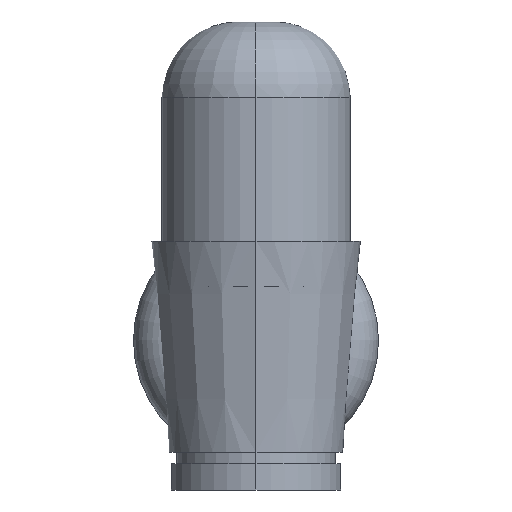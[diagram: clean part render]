
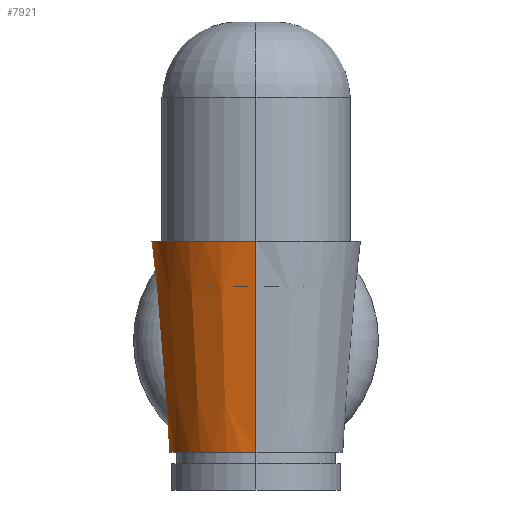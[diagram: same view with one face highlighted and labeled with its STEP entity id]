
A CAD part, left-side view. The second image highlights one B-rep face of the part: STEP entity #7921.
In plain terms, the highlighted conical face has half-angle 4.764 degrees and reference radius 23 mm.
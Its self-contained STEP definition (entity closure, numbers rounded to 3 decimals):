
#293 = CARTESIAN_POINT ( 'NONE',  ( 23., 0., -114.058 ) ) ;
#538 = EDGE_CURVE ( 'NONE', #1576, #4456, #4561, .T. ) ;
#569 = EDGE_LOOP ( 'NONE', ( #3849, #1540, #2036, #3295 ) ) ;
#1204 = DIRECTION ( 'NONE',  ( -1., 0., 0. ) ) ;
#1253 = CARTESIAN_POINT ( 'NONE',  ( 0., 0., -114.058 ) ) ;
#1256 = EDGE_CURVE ( 'NONE', #7229, #3274, #2051, .T. ) ;
#1540 = ORIENTED_EDGE ( 'NONE', *, *, #7666, .T. ) ;
#1546 = LINE ( 'NONE', #1777, #4962 ) ;
#1576 = VERTEX_POINT ( 'NONE', #4008 ) ;
#1777 = CARTESIAN_POINT ( 'NONE',  ( -23., 0., -114.058 ) ) ;
#1838 = VECTOR ( 'NONE', #3083, 1000. ) ;
#2036 = ORIENTED_EDGE ( 'NONE', *, *, #1256, .F. ) ;
#2051 = CIRCLE ( 'NONE', #6572, 27.667 ) ;
#2393 = DIRECTION ( 'NONE',  ( -0.083, 0., 0.997 ) ) ;
#2888 = EDGE_CURVE ( 'NONE', #4456, #7229, #4592, .T. ) ;
#3083 = DIRECTION ( 'NONE',  ( 0.083, 0., 0.997 ) ) ;
#3274 = VERTEX_POINT ( 'NONE', #6785 ) ;
#3295 = ORIENTED_EDGE ( 'NONE', *, *, #2888, .F. ) ;
#3711 = DIRECTION ( 'NONE',  ( 0., 0., 1. ) ) ;
#3849 = ORIENTED_EDGE ( 'NONE', *, *, #538, .F. ) ;
#3900 = CARTESIAN_POINT ( 'NONE',  ( 0., 0., -114.058 ) ) ;
#4008 = CARTESIAN_POINT ( 'NONE',  ( -23., 0., -114.058 ) ) ;
#4109 = FACE_OUTER_BOUND ( 'NONE', #569, .T. ) ;
#4456 = VERTEX_POINT ( 'NONE', #8485 ) ;
#4479 = CARTESIAN_POINT ( 'NONE',  ( 27.667, 0., -58.058 ) ) ;
#4561 = CIRCLE ( 'NONE', #6447, 23. ) ;
#4592 = LINE ( 'NONE', #293, #1838 ) ;
#4962 = VECTOR ( 'NONE', #2393, 1000. ) ;
#5054 = DIRECTION ( 'NONE',  ( -1., 0., 0. ) ) ;
#5260 = DIRECTION ( 'NONE',  ( 1., 0., 0. ) ) ;
#6342 = CONICAL_SURFACE ( 'NONE', #8459, 23., 0.083 ) ;
#6447 = AXIS2_PLACEMENT_3D ( 'NONE', #3900, #8695, #1204 ) ;
#6572 = AXIS2_PLACEMENT_3D ( 'NONE', #7748, #3711, #5054 ) ;
#6697 = DIRECTION ( 'NONE',  ( 0., 0., 1. ) ) ;
#6785 = CARTESIAN_POINT ( 'NONE',  ( -27.667, 0., -58.058 ) ) ;
#7229 = VERTEX_POINT ( 'NONE', #4479 ) ;
#7666 = EDGE_CURVE ( 'NONE', #1576, #3274, #1546, .T. ) ;
#7748 = CARTESIAN_POINT ( 'NONE',  ( 0., 0., -58.058 ) ) ;
#7921 = ADVANCED_FACE ( 'NONE', ( #4109 ), #6342, .T. ) ;
#8459 = AXIS2_PLACEMENT_3D ( 'NONE', #1253, #6697, #5260 ) ;
#8485 = CARTESIAN_POINT ( 'NONE',  ( 23., 0., -114.058 ) ) ;
#8695 = DIRECTION ( 'NONE',  ( 0., 0., -1. ) ) ;
